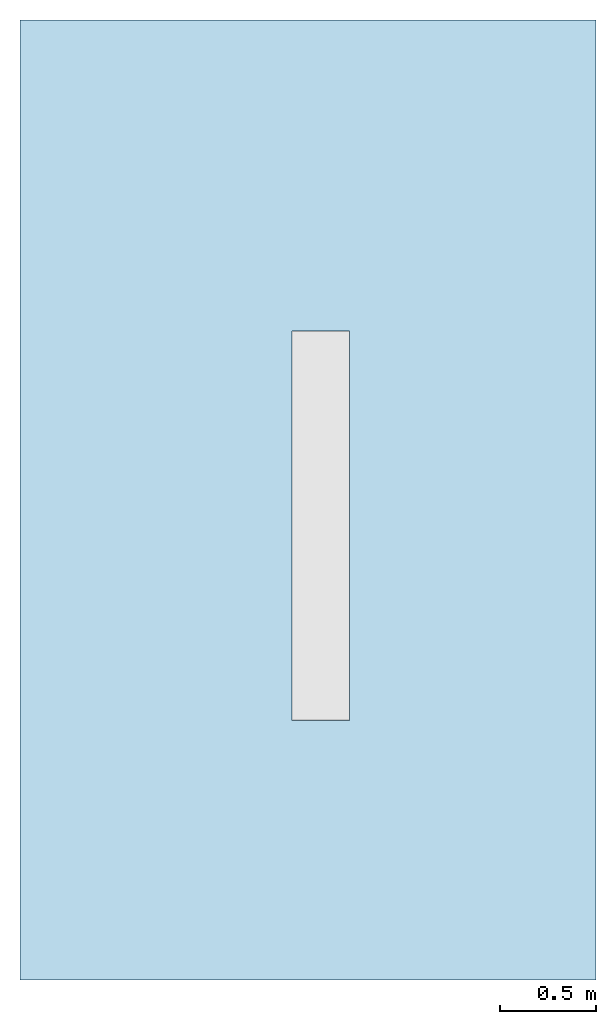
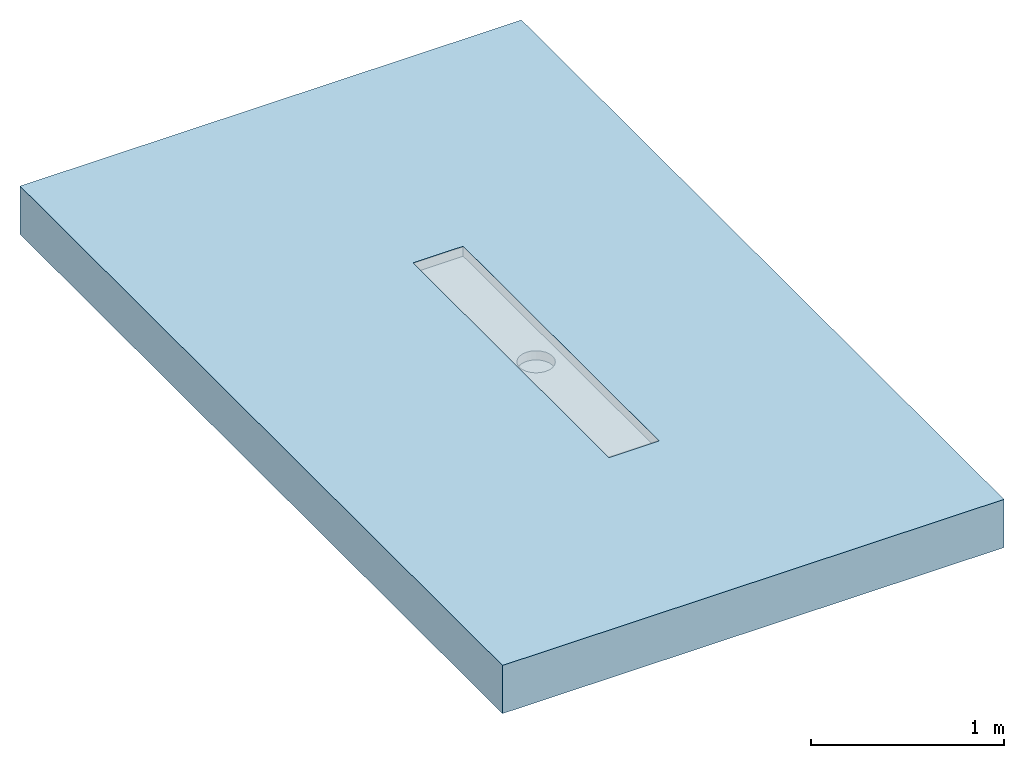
# One storey, incomplete: 1 slab, 1 opening.
"""IFC2X3 building model written with IfcOpenShell, lengths in millimetres."""

import ifcopenshell
import ifcopenshell.guid

model = None  # the IFC model being written
_history = None  # IfcOwnerHistory: only IFC2X3 demands one
_inside = {}  # id of a spatial element -> (the spatial element, [elements in it])
_under = {}  # id of a project, library or spatial element -> (it, [spatial elements below it])
_declared = {}  # id of a project -> (the project, [libraries it declares])
_typed = {}  # id of a type object -> (the type object, [elements of that type])
_made_of = {}  # id of a material, layer set ... -> (it, [elements and type objects made of it])


def new_model(schema):
    """Start an empty IFC model of exactly this schema.

    Asked for "IFC4X3", IfcOpenShell would pick the latest addendum, in which some entities
    have other attributes; the version numbers below select the first issue.
    IFC2X3 requires an IfcOwnerHistory on every rooted entity: one is made here for all.
    """
    global model, _history
    if schema == "IFC4X3":
        model = ifcopenshell.file(schema_version=(4, 3, 0, 0))
    else:
        model = ifcopenshell.file(schema=schema)
    _inside.clear()
    _under.clear()
    _declared.clear()
    _typed.clear()
    _made_of.clear()
    _history = None
    if model.schema == "IFC2X3":
        org = make("IfcOrganization", Name="unknown")
        user = make(
            "IfcPersonAndOrganization",
            ThePerson=make("IfcPerson", FamilyName="unknown"),
            TheOrganization=org,
        )
        app = make(
            "IfcApplication",
            ApplicationDeveloper=org,
            Version="unknown",
            ApplicationFullName="unknown",
            ApplicationIdentifier="unknown",
        )
        _history = make(
            "IfcOwnerHistory",
            OwningUser=user,
            OwningApplication=app,
            ChangeAction="ADDED",
            CreationDate=0,
        )
    return model


def make(cls, **values):
    """One entity of the class cls with the attributes given. An attribute that is None is left unset."""
    return model.create_entity(
        cls, **{name: value for name, value in values.items() if value is not None}
    )


def entity(cls, *values):
    """Any entity or typed value of the class cls, its attributes in the order of the schema. None: left unset."""
    e = model.create_entity(cls)
    for i, value in enumerate(values):
        if value is not None:
            e[i] = value
    return e


def rooted(cls, **values):
    """An entity with a GlobalId (a new one), such as an element, a storey or a relation."""
    return make(cls, GlobalId=ifcopenshell.guid.new(), OwnerHistory=_history, **values)


def si_unit(unit_type, name, prefix=None):
    """IfcSIUnit, for example si_unit("LENGTHUNIT", "METRE", prefix="MILLI")."""
    return make("IfcSIUnit", UnitType=unit_type, Prefix=prefix, Name=name)


def converted_unit(unit_type, name, factor, base, dimensions=None, offset=None):
    """IfcConversionBasedUnit, such as the inch: factor (a typed value) times the base unit."""
    return make(
        "IfcConversionBasedUnit"
        if offset is None
        else "IfcConversionBasedUnitWithOffset",
        ConversionOffset=offset,
        Dimensions=None
        if dimensions is None
        else entity("IfcDimensionalExponents", *dimensions),
        UnitType=unit_type,
        Name=name,
        ConversionFactor=make(
            "IfcMeasureWithUnit", ValueComponent=factor, UnitComponent=base
        ),
    )


def derived_unit(unit_type, elements):
    """IfcDerivedUnit: a product of units, each with its exponent."""
    return make(
        "IfcDerivedUnit",
        Elements=[
            make("IfcDerivedUnitElement", Unit=unit, Exponent=power)
            for unit, power in elements
        ],
        UnitType=unit_type,
    )


def assignment(units):
    """IfcUnitAssignment: the units of a project."""
    return None if units is None else make("IfcUnitAssignment", Units=units)


def point(xyz):
    """IfcCartesianPoint."""
    return None if xyz is None else make("IfcCartesianPoint", Coordinates=xyz)


def direction(xyz):
    """IfcDirection."""
    return None if xyz is None else make("IfcDirection", DirectionRatios=xyz)


def frame(location, z_axis=None, x_axis=None):
    """IfcAxis2Placement3D, a coordinate frame: its origin and axes. An axis left out is left unset."""
    return make(
        "IfcAxis2Placement3D",
        Location=point(location),
        Axis=direction(z_axis),
        RefDirection=direction(x_axis),
    )


def frame_2d(location, x_axis=None):
    """IfcAxis2Placement2D, a coordinate frame in the plane: its origin and x axis."""
    return make(
        "IfcAxis2Placement2D", Location=point(location), RefDirection=direction(x_axis)
    )


def origin():
    """The frame at (0, 0, 0) with its axes left unset."""
    return frame((0.0, 0.0, 0.0))


def place(relative_to, where):
    """IfcLocalPlacement: puts the frame where relative to a parent placement (None: the world)."""
    return make(
        "IfcLocalPlacement", PlacementRelTo=relative_to, RelativePlacement=where
    )


def context(
    kind, dimensions, precision=None, world=None, true_north=None, identifier=None
):
    """IfcGeometricRepresentationContext, for example the 3D "Model" context."""
    return make(
        "IfcGeometricRepresentationContext",
        ContextIdentifier=identifier,
        ContextType=kind,
        CoordinateSpaceDimension=dimensions,
        Precision=precision,
        WorldCoordinateSystem=world,
        TrueNorth=true_north,
    )


def subcontext(parent, identifier, kind, view, scale=None):
    """IfcGeometricRepresentationSubContext, for example "Body" below "Model"."""
    return make(
        "IfcGeometricRepresentationSubContext",
        ContextIdentifier=identifier,
        ContextType=kind,
        ParentContext=parent,
        TargetScale=scale,
        TargetView=view,
    )


def project(units=None, contexts=None):
    """IfcProject with its units and contexts."""
    return rooted(
        "IfcProject",
        Name="project",
        RepresentationContexts=contexts,
        UnitsInContext=assignment(units),
    )


def spatial(cls, under=None, at=None, **own):
    """A site, building, storey or space (cls), placed at a placement, below another one or the project."""
    s = rooted(cls, ObjectPlacement=at, **own)
    if under is not None:
        _under.setdefault(under.id(), (under, []))[1].append(s)
    return s


def profile(cls, at=None, kind="AREA", **sizes):
    """A parametric profile (cls). Its sizes go by their IFC names, for example OverallWidth=200.0."""
    return make(cls, ProfileType=kind, Position=at, **sizes)


def rectangle(**sizes):
    """IfcRectangleProfileDef."""
    return profile("IfcRectangleProfileDef", **sizes)


def extrude(swept, where, along, depth):
    """IfcExtrudedAreaSolid: the profile swept, set in the frame where, extruded along a direction by depth."""
    return make(
        "IfcExtrudedAreaSolid",
        SweptArea=swept,
        Position=where,
        ExtrudedDirection=direction(along),
        Depth=depth,
    )


def faces_of(points, faces, orient=None, outer=None):
    """IfcFace entities. A face is a list of loops; a loop is a list of indices into points, from 0.

    orient and outer hold one flag for each loop. By default every Orientation is true, the
    first loop of a face is its IfcFaceOuterBound and the others are IfcFaceBound.
    """
    made = []
    for i, loops in enumerate(faces):
        bounds = []
        for j, loop in enumerate(loops):
            is_outer = j == 0 if outer is None else outer[i][j]
            bounds.append(
                make(
                    "IfcFaceOuterBound" if is_outer else "IfcFaceBound",
                    Bound=make("IfcPolyLoop", Polygon=[points[k] for k in loop]),
                    Orientation=True if orient is None else orient[i][j],
                )
            )
        made.append(make("IfcFace", Bounds=bounds))
    return made


def faceted_brep(points, faces, orient=None, outer=None, voids=None):
    """IfcFacetedBrep: a solid bounded by flat faces; with voids (closed shells), ...WithVoids."""
    shared = [point(p) for p in points]
    hull = make("IfcClosedShell", CfsFaces=faces_of(shared, faces, orient, outer))
    if voids is None:
        return make("IfcFacetedBrep", Outer=hull)
    return make(
        "IfcFacetedBrepWithVoids",
        Outer=hull,
        Voids=[
            make(cls, CfsFaces=faces_of(shared, fs, o, b)) for cls, fs, o, b in voids
        ],
    )


def shape(context_of_items, identifier, shape_type, items):
    """IfcShapeRepresentation: the items that make up one representation, for example the "Body"."""
    return make(
        "IfcShapeRepresentation",
        ContextOfItems=context_of_items,
        RepresentationIdentifier=identifier,
        RepresentationType=shape_type,
        Items=items,
    )


def material(Name=None, Category=None):
    """IfcMaterial."""
    return make("IfcMaterial", Name=Name, Category=Category)


def layer(
    of_material, thickness, ventilated=None, Name=None, Category=None, Priority=None
):
    """IfcMaterialLayer: one layer of a wall or slab, of a material (None: an air gap)."""
    return make(
        "IfcMaterialLayer",
        Material=of_material,
        LayerThickness=thickness,
        IsVentilated=ventilated,
        Name=Name,
        Category=Category,
        Priority=Priority,
    )


def layer_set(layers, Name=None):
    """IfcMaterialLayerSet."""
    return make("IfcMaterialLayerSet", MaterialLayers=layers, LayerSetName=Name)


def layer_usage(for_layer_set, set_direction, sense, offset, extent=None):
    """IfcMaterialLayerSetUsage: how a layer set lies in its element."""
    return make(
        "IfcMaterialLayerSetUsage",
        ForLayerSet=for_layer_set,
        LayerSetDirection=set_direction,
        DirectionSense=sense,
        OffsetFromReferenceLine=offset,
        ReferenceExtent=extent,
    )


def made_of(thing, what):
    """Note that an element or type object is made of a material, layer set ...; save() writes the relation."""
    if what is not None:
        _made_of.setdefault(what.id(), (what, []))[1].append(thing)
    return thing


def element(
    cls,
    number,
    at=None,
    inside=None,
    cuts=None,
    type_object=None,
    material=None,
    context=None,
    identifier="Body",
    shape_type=None,
    held_by="IfcProductDefinitionShape",
    body=None,
    shapes=None,
    **own,
):
    """One element of the class cls, such as IfcWall. Its Tag is "e" and its number.

    at: its placement. inside: the storey or other place that contains it. cuts: it is an
    opening in that element (IfcRelVoidsElement). A single representation is given by context,
    identifier, shape_type and body (its items); several are given by shapes. held_by: the class
    of the entity that holds the representations. save() writes the other relations.
    """
    e = rooted(cls, Tag="e%d" % number, ObjectPlacement=at, **own)
    if body is not None:
        shapes = [shape(context, identifier, shape_type, body)]
    if shapes is not None:
        e.Representation = make(held_by, Representations=shapes)
    if inside is not None:
        _inside.setdefault(inside.id(), (inside, []))[1].append(e)
    if cuts is not None:
        rooted(
            "IfcRelVoidsElement", RelatingBuildingElement=cuts, RelatedOpeningElement=e
        )
    if type_object is not None:
        _typed.setdefault(type_object.id(), (type_object, []))[1].append(e)
    return made_of(e, material)


def aggregate(whole, parts):
    """IfcRelAggregates: a whole, such as a stair, and the parts it consists of."""
    return rooted("IfcRelAggregates", RelatingObject=whole, RelatedObjects=parts)


def save(model, path):
    """Write the relations noted so far, then the file.

    IfcRelAggregates (storeys below a building ...), IfcRelContainedInSpatialStructure (elements
    in a storey), IfcRelDefinesByType, IfcRelAssociatesMaterial and IfcRelDeclares: one each for
    every whole, place, type object, material and project.
    """
    for whole, parts in _under.values():
        aggregate(whole, parts)
    for where, things in _inside.values():
        rooted(
            "IfcRelContainedInSpatialStructure",
            RelatedElements=things,
            RelatingStructure=where,
        )
    for kind, things in _typed.values():
        rooted("IfcRelDefinesByType", RelatedObjects=things, RelatingType=kind)
    for what, things in _made_of.values():
        rooted("IfcRelAssociatesMaterial", RelatedObjects=things, RelatingMaterial=what)
    for by, libraries in _declared.values():
        rooted("IfcRelDeclares", RelatingContext=by, RelatedDefinitions=libraries)
    model.write(path)


model = new_model("IFC2X3")

# Units and contexts
model_context = context("Model", 3, precision=1e-05, world=origin(), true_north=direction((2.0, 6.12303176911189e-17, 1.0)))
context_of_model = context(None, 3, precision=1e-05, world=origin(), true_north=direction((2.0, 6.12303176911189e-17, 1.0)))
body_context = subcontext(model_context, "Body", "Model", "MODEL_VIEW")
ifc_project = project(units=[si_unit("LENGTHUNIT", "METRE", prefix="MILLI"), converted_unit("AREAUNIT", "SQUARE FOOT", entity("IfcRatioMeasure", 0.09290304), si_unit("AREAUNIT", "SQUARE_METRE"), dimensions=[2, 0, 0, 0, 0, 0, 0]), converted_unit("VOLUMEUNIT", "CUBIC FOOT", entity("IfcRatioMeasure", 0.028316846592), si_unit("VOLUMEUNIT", "CUBIC_METRE"), dimensions=[3, 0, 0, 0, 0, 0, 0]), converted_unit("PLANEANGLEUNIT", "DEGREE", entity("IfcRatioMeasure", 0.0174532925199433), si_unit("PLANEANGLEUNIT", "RADIAN"), dimensions=[0, 0, 0, 0, 0, 0, 0]), si_unit("MASSUNIT", "GRAM", prefix="KILO"), si_unit("TIMEUNIT", "SECOND"), si_unit("THERMODYNAMICTEMPERATUREUNIT", "KELVIN"), derived_unit("THERMALTRANSMITTANCEUNIT", [(si_unit("MASSUNIT", "GRAM", prefix="KILO"), 1), (si_unit("THERMODYNAMICTEMPERATUREUNIT", "KELVIN"), -1), (si_unit("TIMEUNIT", "SECOND"), -3)]), derived_unit("VOLUMETRICFLOWRATEUNIT", [(si_unit("LENGTHUNIT", "METRE"), 3), (si_unit("TIMEUNIT", "SECOND"), -1)]), si_unit("POWERUNIT", "WATT")], contexts=[model_context, context_of_model])

# Site, building, storey
site_placement = place(None, origin())
site = spatial("IfcSite", under=ifc_project, at=site_placement, Name="Default", CompositionType="ELEMENT")
building_placement = place(site_placement, origin())
building = spatial("IfcBuilding", under=site, at=building_placement, CompositionType="ELEMENT")
storey_placement = place(building_placement, origin())
storey = spatial("IfcBuildingStorey", under=building, at=storey_placement, Name="Level 1", CompositionType="ELEMENT", Elevation=0.0)

# Slab, opening
ifc_material = material(Name="Default Floor")
ifc_layer = layer(ifc_material, 304.8)
ifc_layer_set = layer_set([ifc_layer], Name="Floor:Generic - 12\"")
ifc_layer_usage = layer_usage(ifc_layer_set, "AXIS3", "POSITIVE", 0.0)
slab_placement = place(storey_placement, frame((-2592.42688678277, 381.838531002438, -304.8)))
slab = element("IfcSlab", 1, at=slab_placement, inside=storey, material=ifc_layer_usage, Name="Floor:Generic - 12\"", ObjectType="Floor:Generic - 12\"", PredefinedType="FLOOR", context=body_context, shape_type="SweptSolid", body=[
    extrude(rectangle(XDim=5000.0, YDim=3000.0, at=frame_2d((0.0, 0.0), x_axis=(0.0, -1.0))), frame((1500.0, 2500.0, 304.8), z_axis=(0.0, 0.0, -1.0), x_axis=(-1.0, 0.0, 0.0)), (0.0, 0.0, 1.0), 304.8),
])
opening_placement = place(slab_placement, frame((1416.58107164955, 1350.8556560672, 184.151793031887)))
element("IfcOpeningElement", 2, at=opening_placement, cuts=slab, ObjectType="Recess", context=body_context, shape_type="Brep", body=[
    faceted_brep([(300.0, 0.0, 57.8482069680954), (300.0, 0.0, 120.648206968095), (0.0, 0.0, 120.648206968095), (0.0, 0.0, 57.8482069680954), (0.0, 2030.0, 57.8482069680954), (0.0, 2030.0, 120.648206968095), (300.0, 2030.0, 120.648206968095), (300.0, 2030.0, 57.8482069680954), (100.0, 928.397459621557, 57.8482069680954), (124.118095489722, 918.407417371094, 57.8482069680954), (79.2893218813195, 944.289321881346, 57.8482069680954), (150.0, 915.0, 57.8482069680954), (50.0, 1015.0, 57.8482069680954), (53.4074173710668, 989.118095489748, 57.8482069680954), (63.3974596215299, 965.0, 57.8482069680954), (175.881904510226, 918.407417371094, 57.8482069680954), (200.0, 928.397459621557, 57.8482069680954), (220.710678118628, 944.289321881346, 57.8482069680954), (236.602540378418, 965.0, 57.8482069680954), (246.59258262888, 989.118095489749, 57.8482069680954), (250.0, 1015.0, 57.8482069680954), (63.3974596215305, 1065.0, 57.8482069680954), (53.4074173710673, 1040.88190451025, 57.8482069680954), (79.2893218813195, 1085.71067811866, 57.8482069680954), (100.0, 1101.60254037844, 57.8482069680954), (124.118095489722, 1111.59258262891, 57.8482069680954), (150.0, 1115.0, 57.8482069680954), (246.592582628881, 1040.88190451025, 57.8482069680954), (236.602540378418, 1065.0, 57.8482069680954), (200.0, 1101.60254037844, 57.8482069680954), (175.881904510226, 1111.59258262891, 57.8482069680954), (220.710678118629, 1085.71067811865, 57.8482069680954), (150.0, 915.0, 0.0), (124.118095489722, 918.407417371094, 0.0), (100.0, 928.397459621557, 0.0), (124.118095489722, 1111.59258262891, 0.0), (175.881904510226, 918.407417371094, 0.0), (79.2893218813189, 944.289321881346, 0.0), (63.3974596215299, 965.0, 0.0), (53.4074173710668, 989.118095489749, 0.0), (79.2893218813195, 1085.71067811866, 0.0), (200.0, 928.397459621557, 0.0), (236.602540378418, 965.0, 0.0), (220.710678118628, 944.289321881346, 0.0), (236.602540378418, 1065.0, 0.0), (246.59258262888, 989.118095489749, 0.0), (250.0, 1015.0, 0.0), (246.59258262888, 1040.88190451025, 0.0), (63.3974596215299, 1065.0, 0.0), (53.4074173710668, 1040.88190451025, 0.0), (100.0, 1101.60254037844, 0.0), (150.0, 1115.0, 0.0), (220.710678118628, 1085.71067811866, 0.0), (175.881904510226, 1111.59258262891, 0.0), (200.0, 1101.60254037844, 0.0), (50.0, 1015.0, 0.0)], [[[0, 1, 2]], [[2, 3, 0]], [[4, 5, 6]], [[6, 7, 4]], [[2, 1, 5]], [[6, 5, 1]], [[3, 2, 4]], [[5, 4, 2]], [[3, 8, 9]], [[8, 3, 10]], [[3, 9, 11]], [[12, 13, 3]], [[14, 10, 3]], [[13, 14, 3]], [[3, 4, 12]], [[0, 11, 15]], [[11, 0, 3]], [[0, 15, 16]], [[16, 17, 0]], [[18, 19, 0]], [[17, 18, 0]], [[0, 19, 20]], [[21, 22, 4]], [[23, 21, 4]], [[24, 4, 25]], [[4, 24, 23]], [[26, 25, 4]], [[4, 7, 26]], [[22, 12, 4]], [[27, 28, 7]], [[20, 27, 7]], [[29, 30, 7]], [[31, 7, 28]], [[7, 31, 29]], [[30, 26, 7]], [[20, 7, 0]], [[1, 0, 6]], [[7, 6, 0]], [[32, 33, 34]], [[35, 36, 32]], [[37, 38, 39]], [[34, 37, 40]], [[34, 35, 32]], [[41, 42, 43]], [[42, 41, 44]], [[42, 44, 45]], [[46, 45, 47]], [[35, 41, 36]], [[39, 48, 37]], [[49, 48, 39]], [[48, 40, 37]], [[40, 50, 35]], [[35, 34, 40]], [[51, 41, 35]], [[52, 44, 41]], [[47, 45, 44]], [[52, 53, 54]], [[53, 52, 51]], [[52, 41, 51]], [[49, 39, 55]], [[47, 27, 46]], [[44, 28, 47]], [[29, 52, 54]], [[44, 52, 31]], [[30, 54, 53]], [[47, 28, 27]], [[27, 20, 46]], [[30, 29, 54]], [[31, 52, 29]], [[31, 28, 44]], [[26, 30, 53]], [[53, 51, 26]], [[24, 50, 40]], [[21, 48, 49]], [[40, 48, 23]], [[22, 49, 55]], [[35, 24, 25]], [[35, 50, 24]], [[25, 26, 35]], [[40, 23, 24]], [[48, 21, 23]], [[22, 21, 49]], [[55, 12, 22]], [[35, 26, 51]], [[39, 13, 55]], [[38, 14, 39]], [[8, 37, 34]], [[38, 37, 10]], [[9, 34, 33]], [[39, 14, 13]], [[13, 12, 55]], [[9, 8, 34]], [[10, 37, 8]], [[10, 14, 38]], [[11, 9, 33]], [[33, 32, 11]], [[15, 36, 41]], [[43, 16, 41]], [[18, 42, 45]], [[43, 42, 17]], [[19, 45, 46]], [[36, 15, 32]], [[41, 16, 15]], [[32, 15, 11]], [[43, 17, 16]], [[42, 18, 17]], [[19, 18, 45]], [[46, 20, 19]]]),
])

save(model, "model.ifc")
